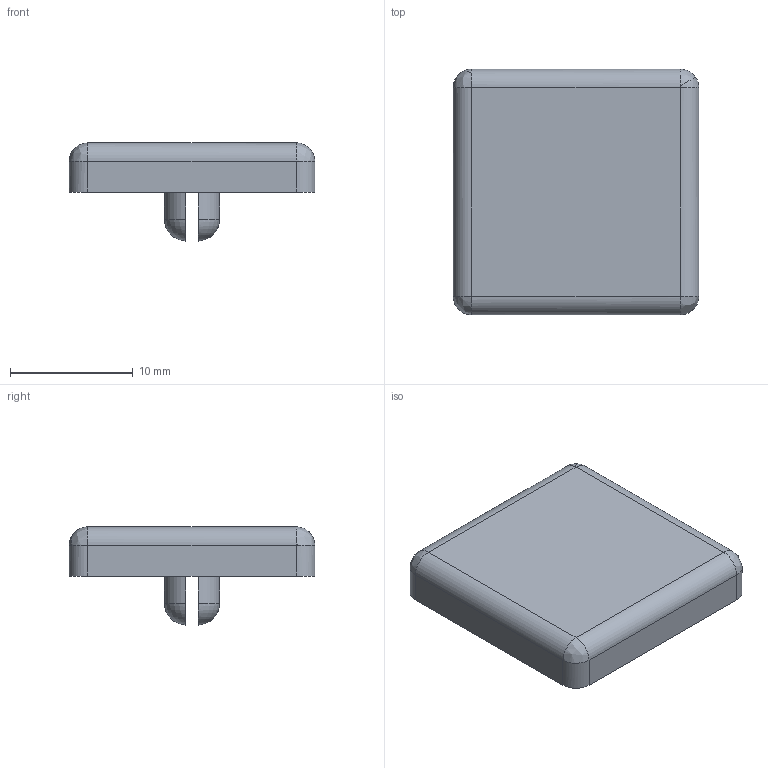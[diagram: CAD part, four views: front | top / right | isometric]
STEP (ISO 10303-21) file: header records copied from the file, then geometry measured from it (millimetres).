
FILE_DESCRIPTION (( 'STEP AP203' ), '1' );
FILE_NAME ('421010_Abdeckkappe 5 20x20, t=4.step', '2022-06-24T07:26:14', ( '' ), ( '' ), 'SwSTEP 2.0', 'SolidWorks 2021', '' );
FILE_SCHEMA (( 'CONFIG_CONTROL_DESIGN' ));
Length unit declared in the file: millimetre
Products named in the file (1): 421010_Abdeckkappe 5 20x20, t=4
Bounding box: 20 x 20 x 7.99 mm (x, y, z)
Volume: 1303.9 mm3; surface area: 1229.6 mm2
Topology: 1 solids, 1 shells, 43 faces, 99 edges, 61 vertices
Faces by surface type: plane 19, cylinder 12, bspline 8, torus 4
Entity records: 1437 total; most frequent: CARTESIAN_POINT 410, DIRECTION 198, ORIENTED_EDGE 194, EDGE_CURVE 97, AXIS2_PLACEMENT_3D 73, VERTEX_POINT 61, LINE 52, VECTOR 52
